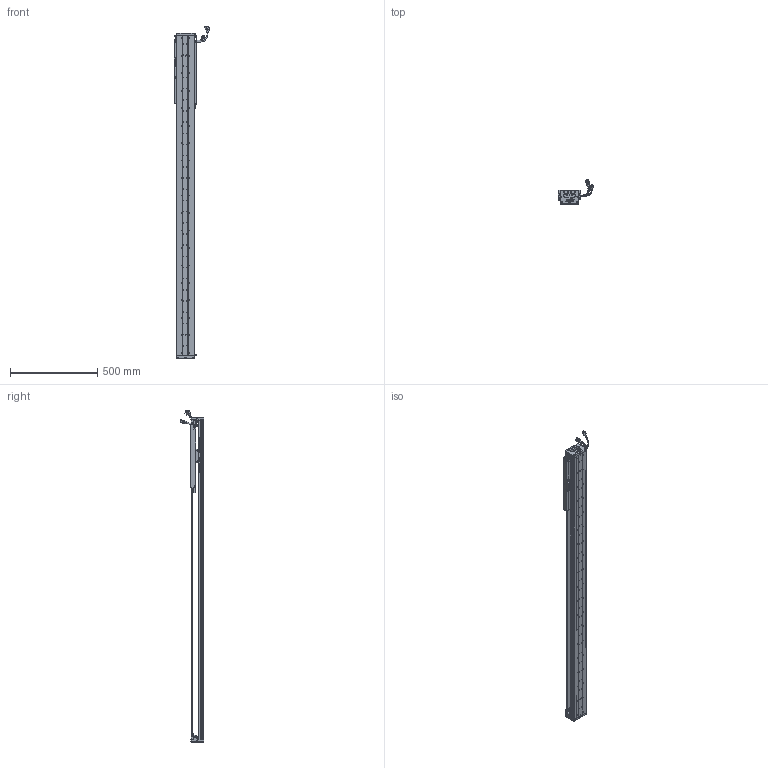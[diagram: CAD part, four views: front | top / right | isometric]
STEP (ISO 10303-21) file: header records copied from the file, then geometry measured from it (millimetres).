
FILE_DESCRIPTION (( 'STEP AP203' ), '1' );
FILE_NAME ('Z5-RY100D-1-L500-B-K.SLDASM_1400.step', '2021-05-17T03:33:30', ( '盈信电脑' ), ( '东莞市道滘镇水果街19号' ), 'SwSTEP 2.0', 'SolidWorks 2016', '' );
FILE_SCHEMA (( 'CONFIG_CONTROL_DESIGN' ));
Length unit declared in the file: millimetre
Products named in the file (36): 140雄赽晤鎢ん堤盄; Z5-RY100铝滑块（21款）; SCALE; HARNESS; 榋妏寠巭燃_暯_M2_2; Z-RY100D詩湍奻揤裔; SCREW-M1.6-3; LABEL; PSLH080_PSLF2; SEAL-Part-1; PBU_SHEET; Z-100詩湍傷裔啣; SCREW-M1.6-1; COVER-Part-1; 覜茼ん672; Z5-RY100D-500-倰第菁釱_1400; 080黍杅芛假蚾釱21遴; Z5-RY100D-1-L500-B-K.SLDASM_1400; COVER; SCALE-Part-2; SEAL; LABEL-Part-1; Z-RY100D覜茼んえ; HARNESS-Part-1; HARNESS-Part-2; Z5-RY100-L500詩湍90mm遵_1400; SCREW-M1.6; SCREW-M1.7; SCREW-M1.6-2; SCALE-Part-1; Z-RY100D詩湍狟揤裔; HOLDER0; SCREW-M1.7-1; 100-Z-臏賑輸盄裔(21遴); SHIELDPLATE; 140蚥薯蝶輸
Assembly tree (43 placements, depth 4):
  Z5-RY100D-1-L500-B-K.SLDASM_1400
    Z5-RY100D-500-倰第菁釱_1400
    Z5-RY100铝滑块（21款）
    PSLH080_PSLF2
      SCALE
        SCALE-Part-1
        SCALE-Part-2
      HARNESS
        HARNESS-Part-1
        HARNESS-Part-2
      LABEL
        LABEL-Part-1
      COVER
        COVER-Part-1
      SEAL
        SEAL-Part-1
      榋妏寠巭燃_暯_M2_2
      SHIELDPLATE
      SCREW-M1.7
      SCREW-M1.7-1
      PBU_SHEET
      SCREW-M1.6
      SCREW-M1.6-1
      SCREW-M1.6-2
      SCREW-M1.6-3
      HOLDER0
    080黍杅芛假蚾釱21遴
    Z-100詩湍傷裔啣  x2
    140蚥薯蝶輸  x2
    覜茼ん672  x3
    Z-RY100D覜茼んえ  x3
    100-Z-臏賑輸盄裔(21遴)
    140雄赽晤鎢ん堤盄
    Z5-RY100-L500詩湍90mm遵_1400
    Z-RY100D詩湍狟揤裔  x2
    Z-RY100D詩湍奻揤裔  x2
Bounding box: 205.83 x 136.11 x 1900.43 mm (x, y, z)
Volume: 3868363.4 mm3; surface area: 1473583.7 mm2
Topology: 38 solids, 38 shells, 2815 faces, 7543 edges, 4796 vertices
Faces by surface type: cylinder 1310, plane 1157, cone 226, torus 69, bspline 53
Entity records: 79229 total; most frequent: CARTESIAN_POINT 16627, DIRECTION 12685, ORIENTED_EDGE 11966, EDGE_CURVE 5983, AXIS2_PLACEMENT_3D 4726, VERTEX_POINT 3864, VECTOR 3233, LINE 3233
